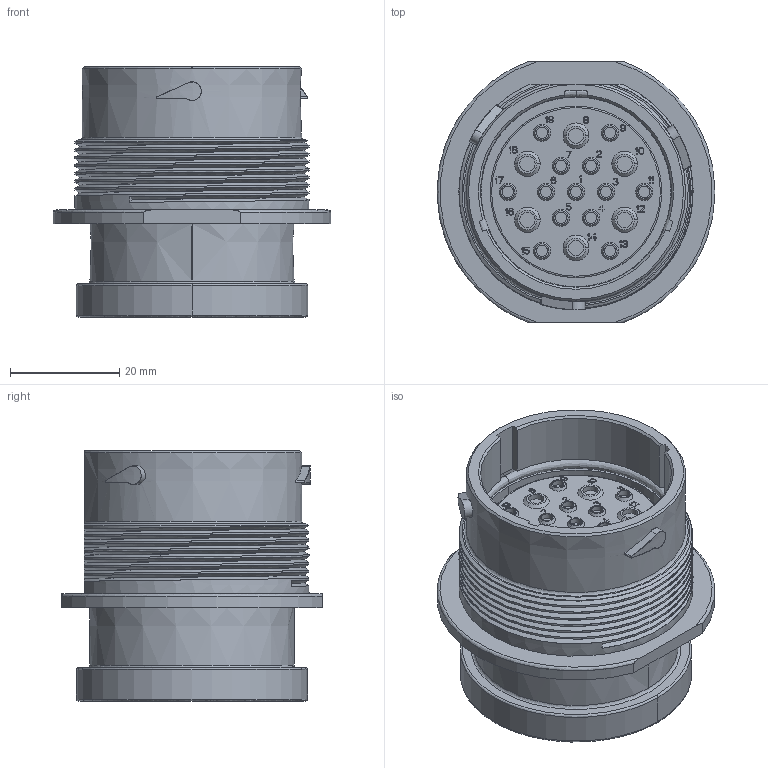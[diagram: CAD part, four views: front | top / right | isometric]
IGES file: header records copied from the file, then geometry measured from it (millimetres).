
Start section:  PTC IGES file: c-hdp24-24-19pn-l017-99-3d.igs
Global section: file name: c-hdp24-24-19pn-l017-99-3d.igs; native system: Pro/ENGINEER by Parametric Technology Corporation; preprocessor: 2011490; author: workeradm; organization: Unknown; units: millimetre
Bounding box: 50.8 x 47.62 x 45.77 mm (x, y, z)
Surface area: 15185.1 mm2 (no closed solid volume)
Topology: 0 solids, 0 shells, 1203 faces, 6368 edges, 6368 vertices
Faces by surface type: bspline 976, revolution 227
